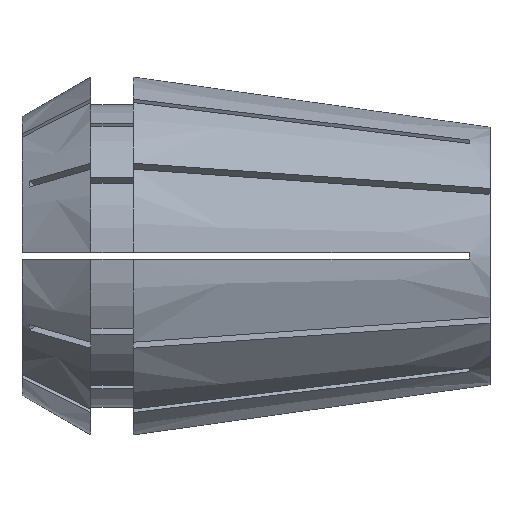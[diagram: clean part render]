
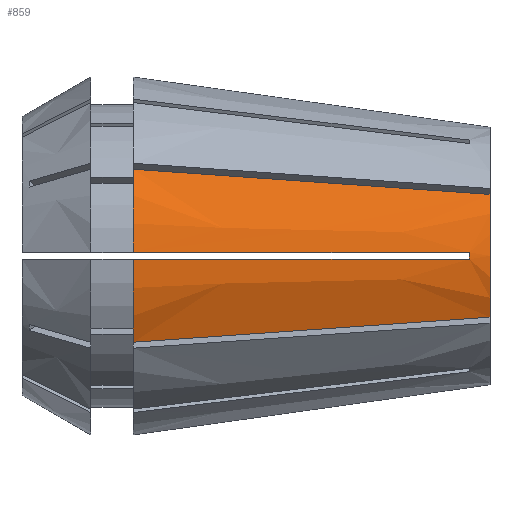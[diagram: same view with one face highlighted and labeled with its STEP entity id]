
A CAD part, top view. The second image highlights one B-rep face of the part: STEP entity #859.
In plain terms, the highlighted conical face has half-angle 8 degrees and reference radius 11.18 mm.
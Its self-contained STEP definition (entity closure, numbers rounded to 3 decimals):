
#859=ADVANCED_FACE('',(#2112),#2114,.T.);
#2112=FACE_BOUND('',#2113,.T.);
#2113=EDGE_LOOP('',(#2848,#2849,#2850,#2851,#2852,#2853,#2854,#2855));
#2114=CONICAL_SURFACE('',#2115,11.18,0.14);
#2115=AXIS2_PLACEMENT_3D('',#2116,#2117,#2118);
#2116=CARTESIAN_POINT('',(21.05,0.,0.));
#2117=DIRECTION('',(-1.,0.,0.));
#2118=DIRECTION('',(0.,-1.,0.));
#2848=ORIENTED_EDGE('',*,*,#3133,.T.);
#2849=ORIENTED_EDGE('',*,*,#3131,.T.);
#2850=ORIENTED_EDGE('',*,*,#3292,.T.);
#2851=ORIENTED_EDGE('',*,*,#3176,.T.);
#2852=ORIENTED_EDGE('',*,*,#3173,.F.);
#2853=ORIENTED_EDGE('',*,*,#3171,.F.);
#2854=ORIENTED_EDGE('',*,*,#3293,.T.);
#2855=ORIENTED_EDGE('',*,*,#3135,.F.);
#3131=EDGE_CURVE('',#3597,#3595,#3598,.T.);
#3133=EDGE_CURVE('',#3600,#3597,#3601,.T.);
#3135=EDGE_CURVE('',#3600,#3603,#3604,.T.);
#3171=EDGE_CURVE('',#3663,#3665,#3666,.T.);
#3173=EDGE_CURVE('',#3665,#3668,#3669,.T.);
#3176=EDGE_CURVE('',#3673,#3668,#3674,.T.);
#3292=EDGE_CURVE('',#3595,#3673,#3861,.T.);
#3293=EDGE_CURVE('',#3663,#3603,#3862,.T.);
#3595=VERTEX_POINT('',#5183);
#3597=VERTEX_POINT('',#5187);
#3598=B_SPLINE_CURVE_WITH_KNOTS('',3,
(#5188,#5189,#5190,#5191),
.UNSPECIFIED.,.F.,.F.,
(4,4),
(0.,1.),
.UNSPECIFIED.);
#3600=VERTEX_POINT('',#5195);
#3601=CIRCLE('',#5196,9.571);
#3603=VERTEX_POINT('',#5203);
#3604=B_SPLINE_CURVE_WITH_KNOTS('',3,
(#5204,#5205,#5206,#5207),
.UNSPECIFIED.,.F.,.F.,
(4,4),
(0.,1.),
.UNSPECIFIED.);
#3663=VERTEX_POINT('',#5354);
#3665=VERTEX_POINT('',#5358);
#3666=B_SPLINE_CURVE_WITH_KNOTS('',3,
(#5359,#5360,#5361,#5362,#5363,#5364,#5365),
.UNSPECIFIED.,.F.,.F.,
(4,3,4),
(0.,0.873,1.),
.UNSPECIFIED.);
#3668=VERTEX_POINT('',#5369);
#3669=CIRCLE('',#5370,9.36);
#3673=VERTEX_POINT('',#5381);
#3674=B_SPLINE_CURVE_WITH_KNOTS('',3,
(#5382,#5383,#5384,#5385,#5386,#5387,#5388),
.UNSPECIFIED.,.F.,.F.,
(4,3,4),
(0.,0.873,1.),
.UNSPECIFIED.);
#3861=CIRCLE('',#5887,13.);
#3862=CIRCLE('',#5891,13.);
#5183=CARTESIAN_POINT('',(8.1,-0.25,12.998));
#5187=CARTESIAN_POINT('',(32.5,-0.25,9.568));
#5188=CARTESIAN_POINT('',(32.5,-0.25,9.568));
#5189=CARTESIAN_POINT('',(24.367,-0.25,10.711));
#5190=CARTESIAN_POINT('',(16.233,-0.25,11.854));
#5191=CARTESIAN_POINT('',(8.1,-0.25,12.998));
#5195=CARTESIAN_POINT('',(32.5,0.25,9.568));
#5196=AXIS2_PLACEMENT_3D('',#5197,#5198,#5199);
#5197=CARTESIAN_POINT('',(32.5,0.,0.));
#5198=DIRECTION('',(1.,0.,0.));
#5199=DIRECTION('',(0.,0.026,1.));
#5203=CARTESIAN_POINT('',(8.1,0.25,12.998));
#5204=CARTESIAN_POINT('',(32.5,0.25,9.568));
#5205=CARTESIAN_POINT('',(24.367,0.25,10.711));
#5206=CARTESIAN_POINT('',(16.233,0.25,11.854));
#5207=CARTESIAN_POINT('',(8.1,0.25,12.998));
#5354=CARTESIAN_POINT('',(8.1,6.282,11.381));
#5358=CARTESIAN_POINT('',(34.,4.462,8.228));
#5359=CARTESIAN_POINT('',(8.1,6.282,11.381));
#5360=CARTESIAN_POINT('',(15.634,5.753,10.464));
#5361=CARTESIAN_POINT('',(23.167,5.223,9.547));
#5362=CARTESIAN_POINT('',(30.701,4.694,8.63));
#5363=CARTESIAN_POINT('',(31.801,4.616,8.496));
#5364=CARTESIAN_POINT('',(32.9,4.539,8.362));
#5365=CARTESIAN_POINT('',(34.,4.462,8.228));
#5369=CARTESIAN_POINT('',(34.,-4.462,8.228));
#5370=AXIS2_PLACEMENT_3D('',#5371,#5372,#5373);
#5371=CARTESIAN_POINT('',(34.,0.,0.));
#5372=DIRECTION('',(1.,0.,-0.));
#5373=DIRECTION('',(0.,0.477,0.879));
#5381=CARTESIAN_POINT('',(8.1,-6.282,11.381));
#5382=CARTESIAN_POINT('',(8.1,-6.282,11.381));
#5383=CARTESIAN_POINT('',(15.634,-5.753,10.464));
#5384=CARTESIAN_POINT('',(23.167,-5.223,9.547));
#5385=CARTESIAN_POINT('',(30.701,-4.694,8.63));
#5386=CARTESIAN_POINT('',(31.801,-4.616,8.496));
#5387=CARTESIAN_POINT('',(32.9,-4.539,8.362));
#5388=CARTESIAN_POINT('',(34.,-4.462,8.228));
#5887=AXIS2_PLACEMENT_3D('',#5888,#5889,#5890);
#5888=CARTESIAN_POINT('',(8.1,0.,0.));
#5889=DIRECTION('',(1.,0.,-0.));
#5890=DIRECTION('',(0.,-0.019,1.));
#5891=AXIS2_PLACEMENT_3D('',#5892,#5893,#5894);
#5892=CARTESIAN_POINT('',(8.1,0.,0.));
#5893=DIRECTION('',(1.,0.,-0.));
#5894=DIRECTION('',(0.,0.483,0.875));
